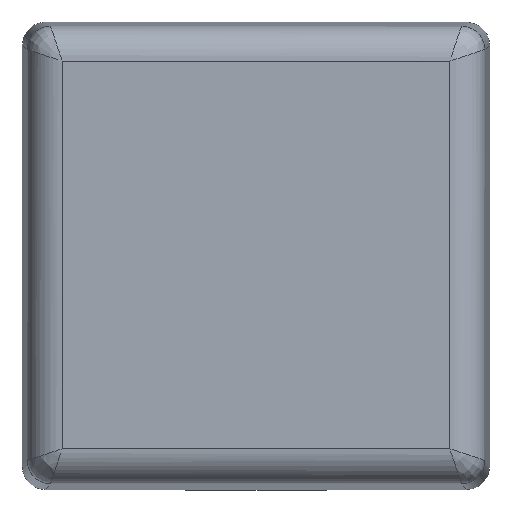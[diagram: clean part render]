
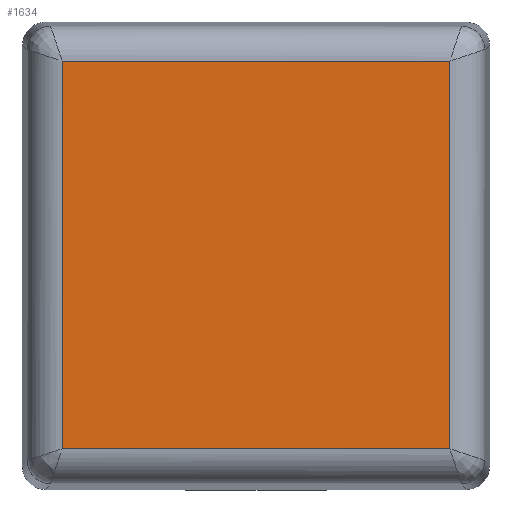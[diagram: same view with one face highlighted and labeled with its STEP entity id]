
A CAD part, top view. The second image highlights one B-rep face of the part: STEP entity #1634.
In plain terms, the highlighted planar face has unit normal (0, 0, 1).
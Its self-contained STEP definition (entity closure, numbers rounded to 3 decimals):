
#811=CARTESIAN_POINT('',(-16.587,16.587,44.789));
#812=VERTEX_POINT('',#811);
#1047=CARTESIAN_POINT('',(-16.587,-16.588,44.789));
#1048=VERTEX_POINT('',#1047);
#1160=CARTESIAN_POINT('',(16.587,16.587,44.789));
#1161=VERTEX_POINT('',#1160);
#1223=CARTESIAN_POINT('',(16.587,-16.588,44.789));
#1224=VERTEX_POINT('',#1223);
#1225=CARTESIAN_POINT('',(16.587,-16.588,44.789));
#1226=DIRECTION('',(0.0,1.0,0.0));
#1227=VECTOR('',#1226,33.175);
#1228=LINE('',#1225,#1227);
#1229=EDGE_CURVE('',#1224,#1161,#1228,.T.);
#1255=CARTESIAN_POINT('',(-16.587,16.587,44.789));
#1256=DIRECTION('',(1.0,0.0,0.0));
#1257=VECTOR('',#1256,33.175);
#1258=LINE('',#1255,#1257);
#1259=EDGE_CURVE('',#812,#1161,#1258,.T.);
#1361=CARTESIAN_POINT('',(16.587,-16.588,44.789));
#1362=DIRECTION('',(-1.0,0.0,0.0));
#1363=VECTOR('',#1362,33.175);
#1364=LINE('',#1361,#1363);
#1365=EDGE_CURVE('',#1224,#1048,#1364,.T.);
#1618=CARTESIAN_POINT('',(16.587,-20.,44.789));
#1619=DIRECTION('',(0.0,0.0,1.0));
#1620=DIRECTION('',(0.0,1.0,0.0));
#1621=AXIS2_PLACEMENT_3D('',#1618,#1619,#1620);
#1622=PLANE('',#1621);
#1623=ORIENTED_EDGE('',*,*,#1365,.F.);
#1624=ORIENTED_EDGE('',*,*,#1229,.T.);
#1625=ORIENTED_EDGE('',*,*,#1259,.F.);
#1626=CARTESIAN_POINT('',(-16.587,-16.588,44.789));
#1627=DIRECTION('',(0.0,1.0,0.0));
#1628=VECTOR('',#1627,33.175);
#1629=LINE('',#1626,#1628);
#1630=EDGE_CURVE('',#1048,#812,#1629,.T.);
#1631=ORIENTED_EDGE('',*,*,#1630,.F.);
#1632=EDGE_LOOP('',(#1623,#1624,#1625,#1631));
#1633=FACE_OUTER_BOUND('',#1632,.T.);
#1634=ADVANCED_FACE('',(#1633),#1622,.T.);
